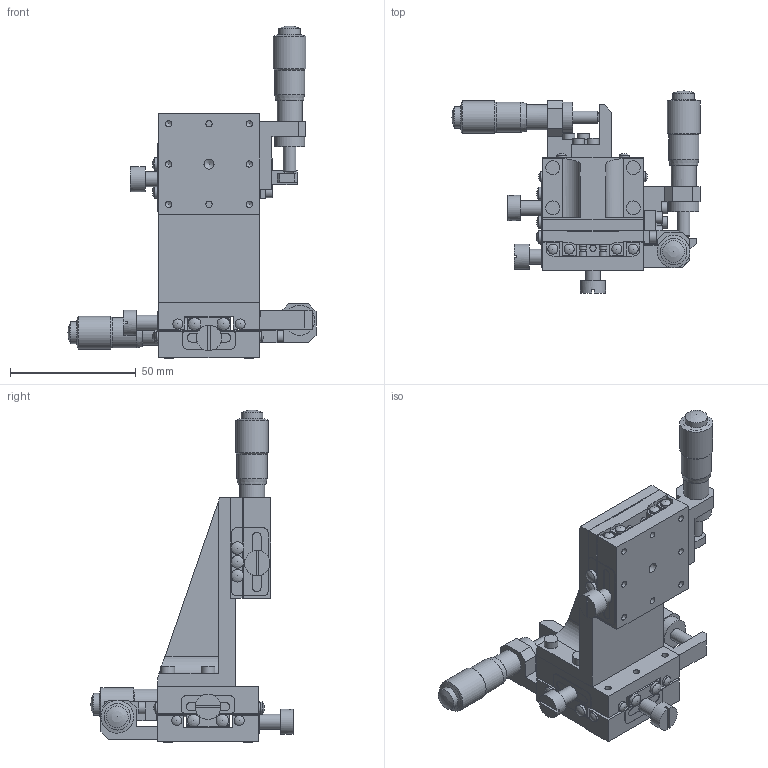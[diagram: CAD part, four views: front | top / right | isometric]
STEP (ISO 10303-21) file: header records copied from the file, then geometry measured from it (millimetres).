
FILE_DESCRIPTION( ( 'STEP AP203' ), '1' );
FILE_NAME( 'C:/3D-Trans/3D_BSS73-40CU+080826.step', '2008-08-26T01:40:28', ( ' ' ), ( ' ' ), 'XStep 1.0', ' ', ' ' );
FILE_SCHEMA( ( 'CONFIG_CONTROL_DESIGN' ) );
Length unit declared in the file: millimetre
Products named in the file (9): 1; 2; 3; 4; 5; 6; 7; 8; 9
Bounding box: 98.5 x 80.3 x 131.8 mm (x, y, z)
Volume: 103493.7 mm3; surface area: 57384.7 mm2
Topology: 9 solids, 9 shells, 560 faces, 1469 edges, 964 vertices
Faces by surface type: plane 305, cylinder 197, sphere 29, cone 29
Full cylindrical faces by diameter (mm): 2 x6, 2.5 x30, 2.6 x2, 3 x15, 3.5 x12, 4 x20, 4.7 x10, 5 x13, 5.5 x4, 6 x11, 8.6 x3, 10 x6, 10.5 x3, 12 x6, 13 x3
Entity records: 15707 total; most frequent: CARTESIAN_POINT 2668, DIRECTION 2663, ORIENTED_EDGE 2286, EDGE_CURVE 1143, AXIS2_PLACEMENT_3D 967, VERTEX_POINT 854, EDGE_LOOP 853, LINE 729
